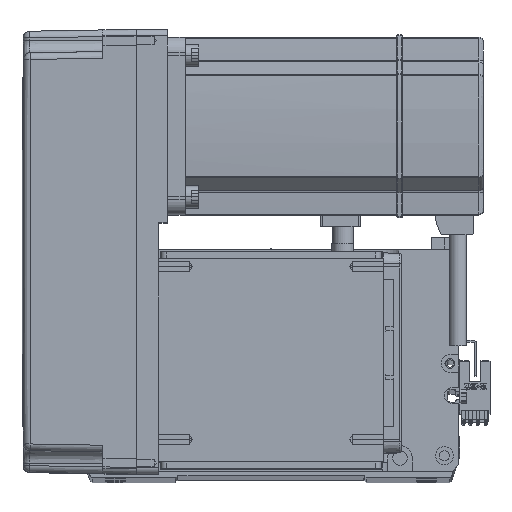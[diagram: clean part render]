
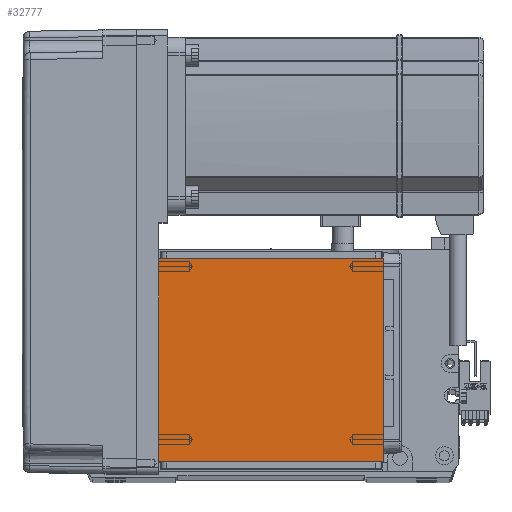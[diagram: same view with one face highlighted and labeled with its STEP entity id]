
A CAD part, top view. The second image highlights one B-rep face of the part: STEP entity #32777.
In plain terms, the highlighted planar face has unit normal (0, 0, 1).
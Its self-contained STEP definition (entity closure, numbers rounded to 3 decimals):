
#9 = DIRECTION ( 'NONE',  ( 1., 0., 0. ) ) ;
#1913 = VERTEX_POINT ( 'NONE', #24380 ) ;
#3863 = ORIENTED_EDGE ( 'NONE', *, *, #30355, .T. ) ;
#5324 = DIRECTION ( 'NONE',  ( 0., -1., 0. ) ) ;
#8673 = CARTESIAN_POINT ( 'NONE',  ( -50.5, 20., 115. ) ) ;
#9862 = EDGE_CURVE ( 'NONE', #36204, #11237, #22149, .T. ) ;
#11194 = FACE_OUTER_BOUND ( 'NONE', #41683, .T. ) ;
#11237 = VERTEX_POINT ( 'NONE', #8673 ) ;
#12448 = ORIENTED_EDGE ( 'NONE', *, *, #9862, .F. ) ;
#12856 = LINE ( 'NONE', #32586, #16330 ) ;
#16330 = VECTOR ( 'NONE', #5324, 1000. ) ;
#19366 = EDGE_CURVE ( 'NONE', #25290, #1913, #37435, .T. ) ;
#22149 = LINE ( 'NONE', #34277, #44910 ) ;
#24380 = CARTESIAN_POINT ( 'NONE',  ( 50.5, 111.5, 115. ) ) ;
#25290 = VERTEX_POINT ( 'NONE', #25683 ) ;
#25683 = CARTESIAN_POINT ( 'NONE',  ( -50.5, 111.5, 115. ) ) ;
#29610 = CARTESIAN_POINT ( 'NONE',  ( 50.5, 20., 115. ) ) ;
#29635 = DIRECTION ( 'NONE',  ( 0., 1., 0. ) ) ;
#30033 = DIRECTION ( 'NONE',  ( 1., 0., 0. ) ) ;
#30355 = EDGE_CURVE ( 'NONE', #25290, #11237, #12856, .T. ) ;
#30493 = ORIENTED_EDGE ( 'NONE', *, *, #43891, .T. ) ;
#31487 = PLANE ( 'NONE',  #37174 ) ;
#32586 = CARTESIAN_POINT ( 'NONE',  ( -50.5, 122., 115. ) ) ;
#32777 = ADVANCED_FACE ( 'NONE', ( #11194 ), #31487, .T. ) ;
#34277 = CARTESIAN_POINT ( 'NONE',  ( -70.004, 20., 115. ) ) ;
#34870 = DIRECTION ( 'NONE',  ( -1., 0., 0. ) ) ;
#36184 = LINE ( 'NONE', #56866, #57576 ) ;
#36204 = VERTEX_POINT ( 'NONE', #29610 ) ;
#37174 = AXIS2_PLACEMENT_3D ( 'NONE', #49800, #54341, #9 ) ;
#37435 = LINE ( 'NONE', #48714, #58128 ) ;
#41656 = ORIENTED_EDGE ( 'NONE', *, *, #19366, .F. ) ;
#41683 = EDGE_LOOP ( 'NONE', ( #41656, #3863, #12448, #30493 ) ) ;
#43891 = EDGE_CURVE ( 'NONE', #36204, #1913, #36184, .T. ) ;
#44910 = VECTOR ( 'NONE', #34870, 1000. ) ;
#48714 = CARTESIAN_POINT ( 'NONE',  ( -70.004, 111.5, 115. ) ) ;
#49800 = CARTESIAN_POINT ( 'NONE',  ( 0., 0., 115. ) ) ;
#54341 = DIRECTION ( 'NONE',  ( 0., 0., 1. ) ) ;
#56866 = CARTESIAN_POINT ( 'NONE',  ( 50.5, 122., 115. ) ) ;
#57576 = VECTOR ( 'NONE', #29635, 1000. ) ;
#58128 = VECTOR ( 'NONE', #30033, 1000. ) ;
